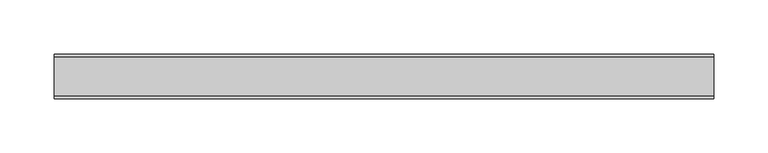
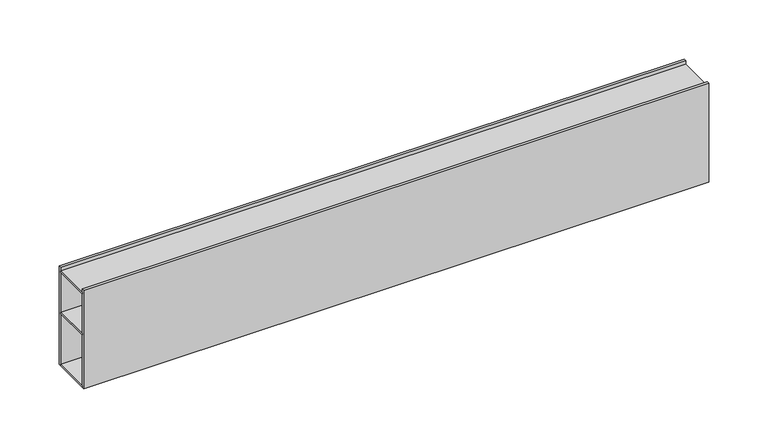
"""IFC4 building model written with IfcOpenShell, lengths in millimetres: light fixture geometry, Lighting-Ceiling-Betacalco-Block-Straight : BLKC-DT1-PW01-TR01-SL04-EP01-LP020-CR80-CTA40."""

from ifc_helpers import new_model, si_unit, frame, origin, origin_with_axes, place, context, project, spatial, polyline, outline, extrude, source, transform, mapped, element, save


def light_fixture_fd8fac24(model_context):
    return source(origin(), model_context, "Body", "SweptSolid", [
        extrude(outline(polyline([(304.8, 18.0975), (304.8, -18.0975), (-304.8, -18.0975), (-304.8, 18.0975), (304.8, 18.0975)])), frame((0.0, 0.0, 96.3095588), z_axis=(0.0, 0.0, 1.0), x_axis=(1.0, 0.0, 0.0)), (0.0, 0.0, 1.0), 1.5875),
        extrude(outline(polyline([(304.8, 18.0975), (304.8, -18.0975), (-304.8, -18.0975), (-304.8, 18.0975), (304.8, 18.0975)])), frame((0.0, 0.0, 53.687913), z_axis=(0.0, 0.0, 1.0), x_axis=(1.0, 0.0, 0.0)), (0.0, 0.0, 1.0), 1.5875),
        extrude(outline(polyline([(304.8, 18.0975), (304.8, -18.0975), (-304.8, -18.0975), (-304.8, 18.0975), (304.8, 18.0975)])), origin_with_axes(), (0.0, 0.0, 1.0), 1.5875),
        extrude(outline(polyline([(304.8, 20.6375), (304.8, 18.0975), (-304.8, 18.0975), (-304.8, 20.6375), (304.8, 20.6375)])), origin_with_axes(), (0.0, 0.0, 1.0), 101.6),
        extrude(outline(polyline([(304.8, -18.0975), (304.8, -20.6375), (-304.8, -20.6375), (-304.8, -18.0975), (304.8, -18.0975)])), origin_with_axes(), (0.0, 0.0, 1.0), 101.6),
    ])


if __name__ == "__main__":
    model = new_model("IFC4")
    model_context = context("Model", 3, world=origin())
    ifc_project = project(units=[si_unit("LENGTHUNIT", "METRE", prefix="MILLI")], contexts=[model_context])
    site = spatial("IfcSite", under=ifc_project)
    building = spatial("IfcBuilding", under=site)
    placement = place(None, origin())
    light_fixture_shape = light_fixture_fd8fac24(model_context)
    element("IfcLightFixture", 1, ObjectType="Lighting-Ceiling-Betacalco-Block-Straight : BLKC-DT1-PW01-TR01-SL04-EP01-LP020-CR80-CTA40", at=placement, inside=building, context=model_context, shape_type="MappedRepresentation", body=[
        mapped(light_fixture_shape, transform((0.0, 0.0, 0.0), x_axis=(1.0, 0.0, 0.0), y_axis=(0.0, 1.0, 0.0), z_axis=(0.0, 0.0, 1.0))),
    ])
    save(model, "model.ifc")
